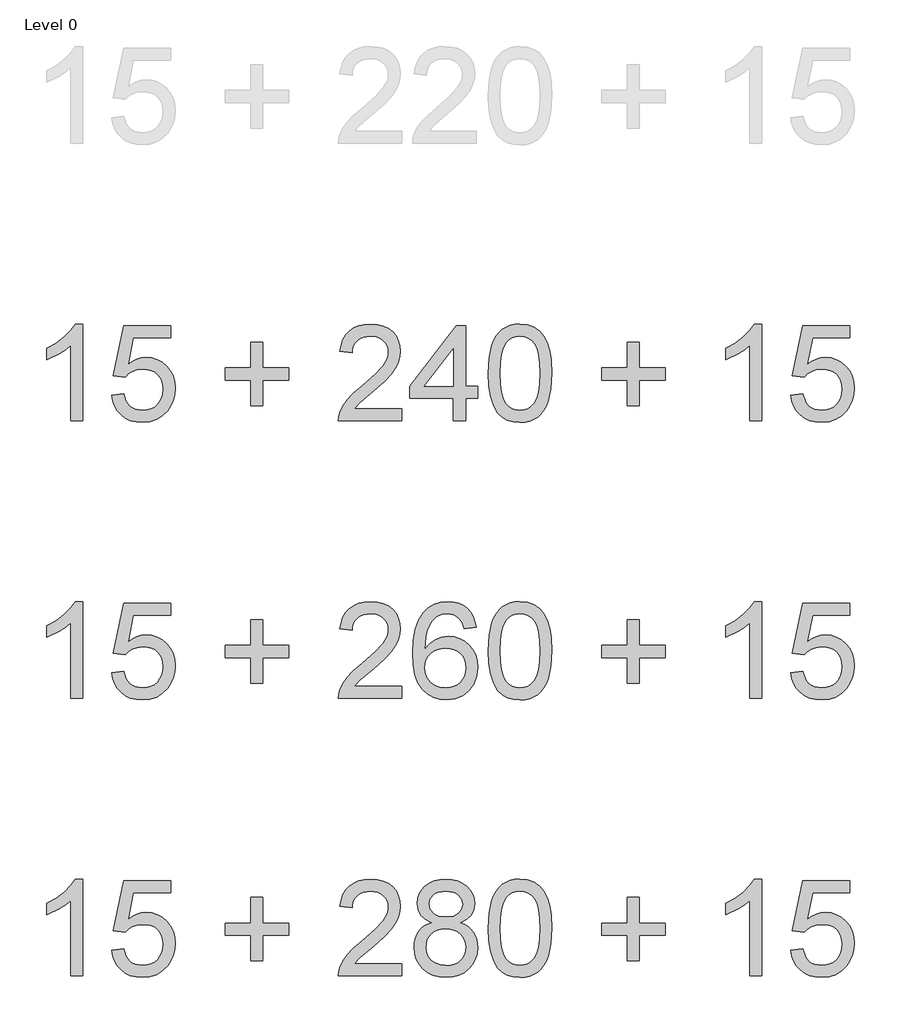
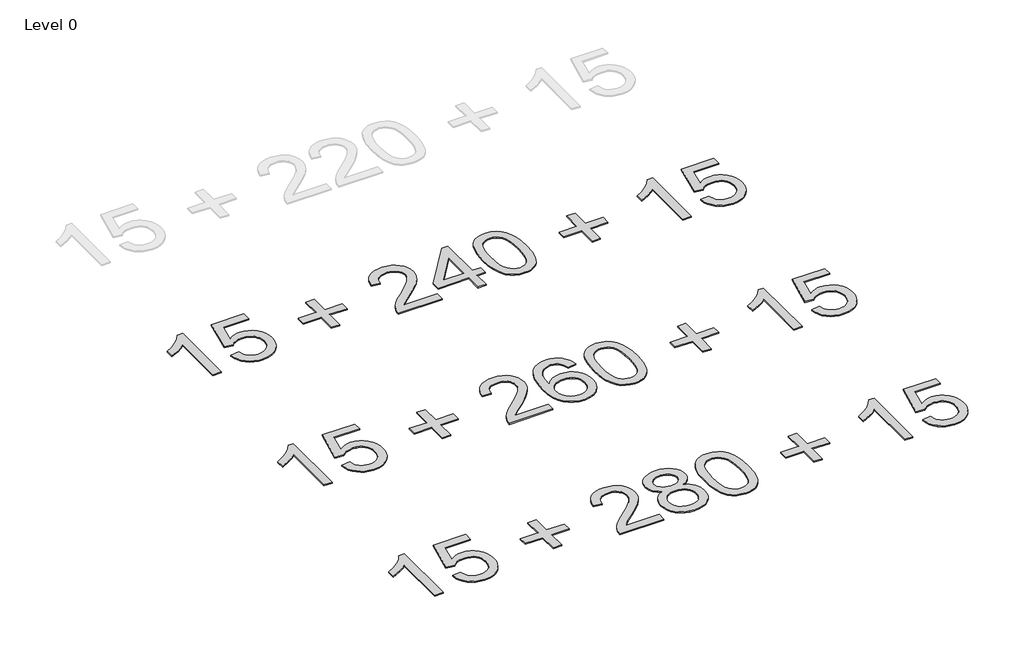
# One storey, part 2 of 11: 3 proxies.
"""IFC4 building model written with IfcOpenShell, lengths in millimetres."""

import ifcopenshell
import ifcopenshell.guid

model = None  # the IFC model being written
_history = None  # IfcOwnerHistory: only IFC2X3 demands one
_inside = {}  # id of a spatial element -> (the spatial element, [elements in it])
_under = {}  # id of a project, library or spatial element -> (it, [spatial elements below it])
_declared = {}  # id of a project -> (the project, [libraries it declares])
_typed = {}  # id of a type object -> (the type object, [elements of that type])
_made_of = {}  # id of a material, layer set ... -> (it, [elements and type objects made of it])


def new_model(schema):
    """Start an empty IFC model of exactly this schema.

    Asked for "IFC4X3", IfcOpenShell would pick the latest addendum, in which some entities
    have other attributes; the version numbers below select the first issue.
    IFC2X3 requires an IfcOwnerHistory on every rooted entity: one is made here for all.
    """
    global model, _history
    if schema == "IFC4X3":
        model = ifcopenshell.file(schema_version=(4, 3, 0, 0))
    else:
        model = ifcopenshell.file(schema=schema)
    _inside.clear()
    _under.clear()
    _declared.clear()
    _typed.clear()
    _made_of.clear()
    _history = None
    if model.schema == "IFC2X3":
        org = make("IfcOrganization", Name="unknown")
        user = make(
            "IfcPersonAndOrganization",
            ThePerson=make("IfcPerson", FamilyName="unknown"),
            TheOrganization=org,
        )
        app = make(
            "IfcApplication",
            ApplicationDeveloper=org,
            Version="unknown",
            ApplicationFullName="unknown",
            ApplicationIdentifier="unknown",
        )
        _history = make(
            "IfcOwnerHistory",
            OwningUser=user,
            OwningApplication=app,
            ChangeAction="ADDED",
            CreationDate=0,
        )
    return model


def make(cls, **values):
    """One entity of the class cls with the attributes given. An attribute that is None is left unset."""
    return model.create_entity(
        cls, **{name: value for name, value in values.items() if value is not None}
    )


def rooted(cls, **values):
    """An entity with a GlobalId (a new one), such as an element, a storey or a relation."""
    return make(cls, GlobalId=ifcopenshell.guid.new(), OwnerHistory=_history, **values)


def si_unit(unit_type, name, prefix=None):
    """IfcSIUnit, for example si_unit("LENGTHUNIT", "METRE", prefix="MILLI")."""
    return make("IfcSIUnit", UnitType=unit_type, Prefix=prefix, Name=name)


def assignment(units):
    """IfcUnitAssignment: the units of a project."""
    return None if units is None else make("IfcUnitAssignment", Units=units)


def point(xyz):
    """IfcCartesianPoint."""
    return None if xyz is None else make("IfcCartesianPoint", Coordinates=xyz)


def direction(xyz):
    """IfcDirection."""
    return None if xyz is None else make("IfcDirection", DirectionRatios=xyz)


def frame(location, z_axis=None, x_axis=None):
    """IfcAxis2Placement3D, a coordinate frame: its origin and axes. An axis left out is left unset."""
    return make(
        "IfcAxis2Placement3D",
        Location=point(location),
        Axis=direction(z_axis),
        RefDirection=direction(x_axis),
    )


def origin():
    """The frame at (0, 0, 0) with its axes left unset."""
    return frame((0.0, 0.0, 0.0))


def origin_with_axes():
    """The frame at (0, 0, 0) with the z axis (0, 0, 1) and the x axis (1, 0, 0) written out."""
    return frame((0.0, 0.0, 0.0), z_axis=(0.0, 0.0, 1.0), x_axis=(1.0, 0.0, 0.0))


def place(relative_to, where):
    """IfcLocalPlacement: puts the frame where relative to a parent placement (None: the world)."""
    return make(
        "IfcLocalPlacement", PlacementRelTo=relative_to, RelativePlacement=where
    )


def context(
    kind, dimensions, precision=None, world=None, true_north=None, identifier=None
):
    """IfcGeometricRepresentationContext, for example the 3D "Model" context."""
    return make(
        "IfcGeometricRepresentationContext",
        ContextIdentifier=identifier,
        ContextType=kind,
        CoordinateSpaceDimension=dimensions,
        Precision=precision,
        WorldCoordinateSystem=world,
        TrueNorth=true_north,
    )


def project(units=None, contexts=None):
    """IfcProject with its units and contexts."""
    return rooted(
        "IfcProject",
        Name="project",
        RepresentationContexts=contexts,
        UnitsInContext=assignment(units),
    )


def spatial(cls, under=None, at=None, **own):
    """A site, building, storey or space (cls), placed at a placement, below another one or the project."""
    s = rooted(cls, ObjectPlacement=at, **own)
    if under is not None:
        _under.setdefault(under.id(), (under, []))[1].append(s)
    return s


def polyline(points):
    """IfcPolyline through the points."""
    return make("IfcPolyline", Points=[point(p) for p in points])


def outline(outer, holes=None, kind="AREA"):
    """IfcArbitraryClosedProfileDef: a profile drawn as a closed curve; with holes, ...WithVoids."""
    if holes is None:
        return make("IfcArbitraryClosedProfileDef", ProfileType=kind, OuterCurve=outer)
    return make(
        "IfcArbitraryProfileDefWithVoids",
        ProfileType=kind,
        OuterCurve=outer,
        InnerCurves=holes,
    )


def extrude(swept, where, along, depth):
    """IfcExtrudedAreaSolid: the profile swept, set in the frame where, extruded along a direction by depth."""
    return make(
        "IfcExtrudedAreaSolid",
        SweptArea=swept,
        Position=where,
        ExtrudedDirection=direction(along),
        Depth=depth,
    )


def shape(context_of_items, identifier, shape_type, items):
    """IfcShapeRepresentation: the items that make up one representation, for example the "Body"."""
    return make(
        "IfcShapeRepresentation",
        ContextOfItems=context_of_items,
        RepresentationIdentifier=identifier,
        RepresentationType=shape_type,
        Items=items,
    )


def made_of(thing, what):
    """Note that an element or type object is made of a material, layer set ...; save() writes the relation."""
    if what is not None:
        _made_of.setdefault(what.id(), (what, []))[1].append(thing)
    return thing


def element(
    cls,
    number,
    at=None,
    inside=None,
    cuts=None,
    type_object=None,
    material=None,
    context=None,
    identifier="Body",
    shape_type=None,
    held_by="IfcProductDefinitionShape",
    body=None,
    shapes=None,
    **own,
):
    """One element of the class cls, such as IfcWall. Its Tag is "e" and its number.

    at: its placement. inside: the storey or other place that contains it. cuts: it is an
    opening in that element (IfcRelVoidsElement). A single representation is given by context,
    identifier, shape_type and body (its items); several are given by shapes. held_by: the class
    of the entity that holds the representations. save() writes the other relations.
    """
    e = rooted(cls, Tag="e%d" % number, ObjectPlacement=at, **own)
    if body is not None:
        shapes = [shape(context, identifier, shape_type, body)]
    if shapes is not None:
        e.Representation = make(held_by, Representations=shapes)
    if inside is not None:
        _inside.setdefault(inside.id(), (inside, []))[1].append(e)
    if cuts is not None:
        rooted(
            "IfcRelVoidsElement", RelatingBuildingElement=cuts, RelatedOpeningElement=e
        )
    if type_object is not None:
        _typed.setdefault(type_object.id(), (type_object, []))[1].append(e)
    return made_of(e, material)


def aggregate(whole, parts):
    """IfcRelAggregates: a whole, such as a stair, and the parts it consists of."""
    return rooted("IfcRelAggregates", RelatingObject=whole, RelatedObjects=parts)


def save(model, path):
    """Write the relations noted so far, then the file.

    IfcRelAggregates (storeys below a building ...), IfcRelContainedInSpatialStructure (elements
    in a storey), IfcRelDefinesByType, IfcRelAssociatesMaterial and IfcRelDeclares: one each for
    every whole, place, type object, material and project.
    """
    for whole, parts in _under.values():
        aggregate(whole, parts)
    for where, things in _inside.values():
        rooted(
            "IfcRelContainedInSpatialStructure",
            RelatedElements=things,
            RelatingStructure=where,
        )
    for kind, things in _typed.values():
        rooted("IfcRelDefinesByType", RelatedObjects=things, RelatingType=kind)
    for what, things in _made_of.values():
        rooted("IfcRelAssociatesMaterial", RelatedObjects=things, RelatingMaterial=what)
    for by, libraries in _declared.values():
        rooted("IfcRelDeclares", RelatingContext=by, RelatedDefinitions=libraries)
    model.write(path)


model = new_model("IFC4")

# Units and contexts
model_context = context("Model", 3, world=origin())
ifc_project = project(units=[si_unit("LENGTHUNIT", "METRE", prefix="MILLI")], contexts=[model_context])

# Site, building, storey
site = spatial("IfcSite", under=ifc_project)
building = spatial("IfcBuilding", under=site)
storey = spatial("IfcBuildingStorey", under=building, Name="Level 0", Elevation=0.0)

# Proxies
placement = place(None, origin())
element("IfcBuildingElementProxy", 1, Name="600mm Arial-500", ObjectType="600mm Arial-500", at=placement, inside=storey, context=model_context, shape_type="SweptSolid", body=[
    extrude(outline(polyline([(27142.4555622, -1549.3323912), (27079.6703683, -1549.3323912), (27079.6703683, -1157.9059483), (27053.4587762, -1179.1051483), (27020.1961124, -1200.2736914), (26954.0999806, -1231.9728567), (26954.0999806, -1172.6212281), (27003.4114964, -1145.7964993), (27046.1317931, -1113.8827362), (27079.8083241, -1079.9456222), (27101.9885427, -1047.0508404), (27142.4555622, -1047.0508404), (27142.4555622, -1549.3323912)])), origin_with_axes(), (0.0, 0.0, 1.0), 8.0),
    extrude(outline(polyline([(27291.5703975, -1415.9138543), (27354.3555914, -1408.065705), (27365.8825606, -1445.7582811), (27374.8650126, -1460.5923562), (27385.993443, -1472.7516225), (27399.244859, -1482.2207518), (27414.5962681, -1488.9844156), (27451.5990654, -1494.3953466), (27475.5113951, -1492.5137834), (27496.6032962, -1486.8690941), (27514.8747686, -1477.4612785), (27530.3258124, -1464.2903366), (27542.6115382, -1448.0077262), (27551.3870566, -1429.264905), (27556.6523677, -1408.0618729), (27558.4074714, -1384.39863), (27556.7634987, -1362.0344704), (27551.8315807, -1342.1535142), (27543.6117174, -1324.7557615), (27532.1039087, -1309.8412123), (27517.2698337, -1297.8773833), (27499.0711712, -1289.3317911), (27477.5079214, -1284.2044358), (27452.5800841, -1282.4953173), (27422.1225206, -1285.2237755), (27397.4590985, -1293.4091499), (27377.7620833, -1305.9477945), (27362.2037406, -1321.7360635), (27299.4185468, -1313.8879143), (27354.3555914, -1054.8989897), (27597.6482175, -1054.8989897), (27597.6482175, -1117.6841835), (27405.1233067, -1117.6841835), (27378.1452937, -1256.0078137), (27400.3025197, -1240.1275742), (27422.9962403, -1228.784546), (27446.2264555, -1221.9787291), (27469.9931652, -1219.7101235), (27500.573356, -1222.5228879), (27528.6703434, -1230.9611812), (27554.2841273, -1245.0250033), (27577.4147078, -1264.7143542), (27596.5675642, -1288.8259533), (27610.2481759, -1316.1565199), (27618.4565429, -1346.7060539), (27621.1926652, -1380.4745554), (27618.7324544, -1413.0014551), (27611.3518218, -1443.2597492), (27599.0507676, -1471.2494377), (27581.8292917, -1496.9705205), (27555.7403269, -1523.3124042), (27525.2980918, -1542.1280354), (27490.5025864, -1553.4174142), (27451.3538108, -1557.1805404), (27418.9533705, -1554.7624827), (27389.6875913, -1547.5083096), (27363.5564734, -1535.4180211), (27340.5600166, -1518.4916172), (27321.4263207, -1497.5721609), (27306.8834856, -1473.5027149), (27296.9315112, -1446.2832794), (27291.5703975, -1415.9138543)])), origin_with_axes(), (0.0, 0.0, 1.0), 8.0),
    extrude(outline(polyline([(28013.6001267, -1470.8508989), (28013.6001267, -1337.432362), (27880.1815898, -1337.432362), (27880.1815898, -1274.6471681), (28013.6001267, -1274.6471681), (28013.6001267, -1141.2286312), (28076.3853206, -1141.2286312), (28076.3853206, -1274.6471681), (28209.8038575, -1274.6471681), (28209.8038575, -1337.432362), (28076.3853206, -1337.432362), (28076.3853206, -1470.8508989), (28013.6001267, -1470.8508989)])), origin_with_axes(), (0.0, 0.0, 1.0), 8.0),
    extrude(outline(polyline([(28798.4150498, -1486.5471973), (28798.4150498, -1549.3323912), (28468.7927821, -1549.3323912), (28470.1723396, -1527.2288146), (28475.5372853, -1506.0449431), (28491.0343144, -1472.2151279), (28513.7356992, -1439.3969883), (28546.5538388, -1405.046007), (28592.4011325, -1366.6176669), (28660.1374048, -1306.4383039), (28700.7423801, -1262.0165529), (28721.021875, -1225.9641174), (28726.0917488, -1208.3057816), (28727.7817067, -1190.8927005), (28726.1837193, -1174.5104554), (28721.389757, -1159.4541184), (28713.39982, -1145.7236893), (28702.213908, -1133.3191683), (28688.4528222, -1123.0452972), (28672.7373632, -1115.7068178), (28655.0675311, -1111.3037301), (28635.4433259, -1109.8360343), (28596.2792218, -1115.568862), (28579.9736188, -1122.7348967), (28565.8523152, -1132.7673453), (28554.4288128, -1145.3289826), (28546.2166137, -1160.0825834), (28541.2157178, -1177.0281479), (28539.4261252, -1196.1656758), (28476.6409313, -1188.3175266), (28482.040366, -1155.90559), (28491.8620489, -1127.5863405), (28506.1059799, -1103.3597783), (28524.772159, -1083.2259033), (28547.4313907, -1067.3993133), (28573.6544791, -1056.0946061), (28603.4414244, -1049.3117819), (28636.7922266, -1047.0508404), (28670.4419328, -1049.5647007), (28700.3898265, -1057.1062816), (28726.6359076, -1069.6755831), (28749.1801761, -1087.2726052), (28767.286868, -1108.5944325), (28780.2202194, -1132.3381496), (28787.9802303, -1158.5037566), (28790.5669005, -1187.0912533), (28787.7771287, -1217.1196211), (28779.4078134, -1246.6268228), (28764.5545778, -1276.6398623), (28742.3130455, -1308.1857433), (28706.8584182, -1345.8476626), (28652.3658977, -1394.2088165), (28580.1383993, -1454.6027774), (28551.8114857, -1486.5471973), (28798.4150498, -1486.5471973)])), origin_with_axes(), (0.0, 0.0, 1.0), 8.0),
    extrude(outline(polyline([(29065.2521236, -1549.3323912), (29065.2521236, -1431.6101527), (28837.6557959, -1431.6101527), (28837.6557959, -1368.8249589), (29080.9484221, -1054.8989897), (29128.0373175, -1054.8989897), (29128.0373175, -1368.8249589), (29190.8225113, -1368.8249589), (29190.8225113, -1431.6101527), (29128.0373175, -1431.6101527), (29128.0373175, -1549.3323912), (29065.2521236, -1549.3323912)]), holes=[polyline([(29065.2521236, -1368.8249589), (29065.2521236, -1174.8285201), (28914.9110149, -1368.8249589), (29065.2521236, -1368.8249589)])]), origin_with_axes(), (0.0, 0.0, 1.0), 8.0),
    extrude(outline(polyline([(29245.7595559, -1302.2383178), (29250.3734093, -1221.8407734), (29264.2149693, -1157.7220073), (29274.5616504, -1131.5219115), (29287.1462804, -1108.9010009), (29301.9688591, -1089.8592755), (29319.0293866, -1074.3967354), (29338.3853445, -1062.4329064), (29360.0942143, -1053.8873142), (29384.1559961, -1048.7599589), (29410.5706897, -1047.0508404), (29449.2596129, -1051.0975424), (29483.9018341, -1063.2376482), (29512.8725412, -1082.995977), (29534.5469221, -1109.8973479), (29550.9176709, -1143.7118347), (29563.9774817, -1184.209511), (29572.5307381, -1235.6363482), (29575.3818236, -1302.2383178), (29570.8139555, -1382.1760096), (29557.1103512, -1446.1414915), (29546.8441442, -1472.3530837), (29534.3169959, -1495.0084832), (29519.5289061, -1514.1076901), (29502.4798749, -1529.6507044), (29483.1009244, -1541.6950077), (29461.3230767, -1550.2980814), (29437.1463318, -1555.4599257), (29410.5706897, -1557.1805404), (29375.9897822, -1554.1914992), (29345.3329493, -1545.2243756), (29318.600191, -1530.2791695), (29295.7915073, -1509.355881), (29273.9025285, -1471.5330134), (29258.2675437, -1424.405797), (29248.8865529, -1367.9742318), (29245.7595559, -1302.2383178)]), holes=[polyline([(29308.5447498, -1302.1156904), (29310.3841597, -1356.6963493), (29315.9023897, -1400.8766777), (29325.0994395, -1434.6566755), (29337.9753094, -1458.0363427), (29353.5489805, -1473.9434069), (29370.8394343, -1485.3055956), (29389.8466707, -1492.1229088), (29410.5706897, -1494.3953466), (29431.2947088, -1492.1152446), (29450.3019452, -1485.2749388), (29467.592399, -1473.874429), (29483.1660701, -1457.9137154), (29496.04194, -1434.4957271), (29505.2389898, -1400.7233935), (29510.7572198, -1356.5967146), (29512.5966297, -1302.1156904), (29510.8185334, -1248.9797347), (29505.4842445, -1205.5773235), (29496.593763, -1171.9084568), (29484.1470888, -1147.9731344), (29468.8340007, -1131.2881531), (29451.3442775, -1119.3703093), (29431.6779192, -1112.219603), (29409.8349258, -1109.8360343), (29389.2182056, -1111.9360273), (29370.5328659, -1118.2360065), (29353.7789067, -1128.7359718), (29338.956328, -1143.4359232), (29325.6512625, -1169.4942312), (29316.1476443, -1204.6269617), (29310.4454734, -1248.8341148), (29308.5447498, -1302.1156904)])]), origin_with_axes(), (0.0, 0.0, 1.0), 8.0),
    extrude(outline(polyline([(29967.7892851, -1470.8508989), (29967.7892851, -1337.432362), (29834.3707482, -1337.432362), (29834.3707482, -1274.6471681), (29967.7892851, -1274.6471681), (29967.7892851, -1141.2286312), (30030.574479, -1141.2286312), (30030.574479, -1274.6471681), (30163.9930159, -1274.6471681), (30163.9930159, -1337.432362), (30030.574479, -1337.432362), (30030.574479, -1470.8508989), (29967.7892851, -1470.8508989)])), origin_with_axes(), (0.0, 0.0, 1.0), 8.0),
    extrude(outline(polyline([(30666.2745666, -1549.3323912), (30603.4893728, -1549.3323912), (30603.4893728, -1157.9059483), (30577.2777806, -1179.1051483), (30544.0151169, -1200.2736914), (30477.9189851, -1231.9728567), (30477.9189851, -1172.6212281), (30527.2305009, -1145.7964993), (30569.9507975, -1113.8827362), (30603.6273285, -1079.9456222), (30625.8075471, -1047.0508404), (30666.2745666, -1047.0508404), (30666.2745666, -1549.3323912)])), origin_with_axes(), (0.0, 0.0, 1.0), 8.0),
    extrude(outline(polyline([(30815.389402, -1415.9138543), (30878.1745958, -1408.065705), (30889.701565, -1445.7582811), (30898.6840171, -1460.5923562), (30909.8124474, -1472.7516225), (30923.0638635, -1482.2207518), (30938.4152726, -1488.9844156), (30975.4180699, -1494.3953466), (30999.3303996, -1492.5137834), (31020.4223006, -1486.8690941), (31038.6937731, -1477.4612785), (31054.1448169, -1464.2903366), (31066.4305427, -1448.0077262), (31075.2060611, -1429.264905), (31080.4713721, -1408.0618729), (31082.2264758, -1384.39863), (31080.5825032, -1362.0344704), (31075.6505852, -1342.1535142), (31067.4307218, -1324.7557615), (31055.9229132, -1309.8412123), (31041.0888381, -1297.8773833), (31022.8901757, -1289.3317911), (31001.3269258, -1284.2044358), (30976.3990886, -1282.4953173), (30945.941525, -1285.2237755), (30921.2781029, -1293.4091499), (30901.5810878, -1305.9477945), (30886.0227451, -1321.7360635), (30823.2375512, -1313.8879143), (30878.1745958, -1054.8989897), (31121.467222, -1054.8989897), (31121.467222, -1117.6841835), (30928.9423112, -1117.6841835), (30901.9642982, -1256.0078137), (30924.1215242, -1240.1275742), (30946.8152448, -1228.784546), (30970.0454599, -1221.9787291), (30993.8121697, -1219.7101235), (31024.3923605, -1222.5228879), (31052.4893479, -1230.9611812), (31078.1031318, -1245.0250033), (31101.2337122, -1264.7143542), (31120.3865686, -1288.8259533), (31134.0671803, -1316.1565199), (31142.2755473, -1346.7060539), (31145.0116697, -1380.4745554), (31142.5514588, -1413.0014551), (31135.1708263, -1443.2597492), (31122.8697721, -1471.2494377), (31105.6482962, -1496.9705205), (31079.5593314, -1523.3124042), (31049.1170963, -1542.1280354), (31014.3215909, -1553.4174142), (30975.1728152, -1557.1805404), (30942.7723749, -1554.7624827), (30913.5065958, -1547.5083096), (30887.3754778, -1535.4180211), (30864.379021, -1518.4916172), (30845.2453252, -1497.5721609), (30830.70249, -1473.5027149), (30820.7505157, -1446.2832794), (30815.389402, -1415.9138543)])), origin_with_axes(), (0.0, 0.0, 1.0), 8.0),
])
element("IfcBuildingElementProxy", 2, Name="600mm Arial-500", ObjectType="600mm Arial-500", at=placement, inside=storey, context=model_context, shape_type="SweptSolid", body=[
    extrude(outline(polyline([(27142.4555622, -2989.3323912), (27079.6703683, -2989.3323912), (27079.6703683, -2597.9059483), (27053.4587762, -2619.1051483), (27020.1961124, -2640.2736914), (26954.0999806, -2671.9728567), (26954.0999806, -2612.6212281), (27003.4114964, -2585.7964993), (27046.1317931, -2553.8827362), (27079.8083241, -2519.9456222), (27101.9885427, -2487.0508404), (27142.4555622, -2487.0508404), (27142.4555622, -2989.3323912)])), origin_with_axes(), (0.0, 0.0, 1.0), 8.0),
    extrude(outline(polyline([(27291.5703975, -2855.9138543), (27354.3555914, -2848.065705), (27365.8825606, -2885.7582811), (27374.8650126, -2900.5923562), (27385.993443, -2912.7516225), (27399.244859, -2922.2207518), (27414.5962681, -2928.9844156), (27451.5990654, -2934.3953466), (27475.5113951, -2932.5137834), (27496.6032962, -2926.8690941), (27514.8747686, -2917.4612785), (27530.3258124, -2904.2903366), (27542.6115382, -2888.0077262), (27551.3870566, -2869.264905), (27556.6523677, -2848.0618729), (27558.4074714, -2824.39863), (27556.7634987, -2802.0344704), (27551.8315807, -2782.1535142), (27543.6117174, -2764.7557615), (27532.1039087, -2749.8412123), (27517.2698337, -2737.8773833), (27499.0711712, -2729.3317911), (27477.5079214, -2724.2044358), (27452.5800841, -2722.4953173), (27422.1225206, -2725.2237755), (27397.4590985, -2733.4091499), (27377.7620833, -2745.9477945), (27362.2037406, -2761.7360635), (27299.4185468, -2753.8879143), (27354.3555914, -2494.8989897), (27597.6482175, -2494.8989897), (27597.6482175, -2557.6841835), (27405.1233067, -2557.6841835), (27378.1452937, -2696.0078137), (27400.3025197, -2680.1275742), (27422.9962403, -2668.784546), (27446.2264555, -2661.9787291), (27469.9931652, -2659.7101235), (27500.573356, -2662.5228879), (27528.6703434, -2670.9611812), (27554.2841273, -2685.0250033), (27577.4147078, -2704.7143542), (27596.5675642, -2728.8259533), (27610.2481759, -2756.1565199), (27618.4565429, -2786.7060539), (27621.1926652, -2820.4745554), (27618.7324544, -2853.0014551), (27611.3518218, -2883.2597492), (27599.0507676, -2911.2494377), (27581.8292917, -2936.9705205), (27555.7403269, -2963.3124042), (27525.2980918, -2982.1280354), (27490.5025864, -2993.4174142), (27451.3538108, -2997.1805404), (27418.9533705, -2994.7624827), (27389.6875913, -2987.5083096), (27363.5564734, -2975.4180211), (27340.5600166, -2958.4916172), (27321.4263207, -2937.5721609), (27306.8834856, -2913.5027149), (27296.9315112, -2886.2832794), (27291.5703975, -2855.9138543)])), origin_with_axes(), (0.0, 0.0, 1.0), 8.0),
    extrude(outline(polyline([(28013.6001267, -2910.8508989), (28013.6001267, -2777.432362), (27880.1815898, -2777.432362), (27880.1815898, -2714.6471681), (28013.6001267, -2714.6471681), (28013.6001267, -2581.2286312), (28076.3853206, -2581.2286312), (28076.3853206, -2714.6471681), (28209.8038575, -2714.6471681), (28209.8038575, -2777.432362), (28076.3853206, -2777.432362), (28076.3853206, -2910.8508989), (28013.6001267, -2910.8508989)])), origin_with_axes(), (0.0, 0.0, 1.0), 8.0),
    extrude(outline(polyline([(28798.4150498, -2926.5471973), (28798.4150498, -2989.3323912), (28468.7927821, -2989.3323912), (28470.1723396, -2967.2288146), (28475.5372853, -2946.0449431), (28491.0343144, -2912.2151279), (28513.7356992, -2879.3969883), (28546.5538388, -2845.046007), (28592.4011325, -2806.6176669), (28660.1374048, -2746.4383039), (28700.7423801, -2702.0165529), (28721.021875, -2665.9641174), (28726.0917488, -2648.3057816), (28727.7817067, -2630.8927005), (28726.1837193, -2614.5104554), (28721.389757, -2599.4541184), (28713.39982, -2585.7236893), (28702.213908, -2573.3191683), (28688.4528222, -2563.0452972), (28672.7373632, -2555.7068178), (28655.0675311, -2551.3037301), (28635.4433259, -2549.8360343), (28596.2792218, -2555.568862), (28579.9736188, -2562.7348967), (28565.8523152, -2572.7673453), (28554.4288128, -2585.3289826), (28546.2166137, -2600.0825834), (28541.2157178, -2617.0281479), (28539.4261252, -2636.1656758), (28476.6409313, -2628.3175266), (28482.040366, -2595.90559), (28491.8620489, -2567.5863405), (28506.1059799, -2543.3597783), (28524.772159, -2523.2259033), (28547.4313907, -2507.3993133), (28573.6544791, -2496.0946061), (28603.4414244, -2489.3117819), (28636.7922266, -2487.0508404), (28670.4419328, -2489.5647007), (28700.3898265, -2497.1062816), (28726.6359076, -2509.6755831), (28749.1801761, -2527.2726052), (28767.286868, -2548.5944325), (28780.2202194, -2572.3381496), (28787.9802303, -2598.5037566), (28790.5669005, -2627.0912533), (28787.7771287, -2657.1196211), (28779.4078134, -2686.6268228), (28764.5545778, -2716.6398623), (28742.3130455, -2748.1857433), (28706.8584182, -2785.8476626), (28652.3658977, -2834.2088165), (28580.1383993, -2894.6027774), (28551.8114857, -2926.5471973), (28798.4150498, -2926.5471973)])), origin_with_axes(), (0.0, 0.0, 1.0), 8.0),
    extrude(outline(polyline([(29182.9743621, -2620.4693773), (29120.1891682, -2628.3175266), (29110.0724134, -2597.2008412), (29096.3994659, -2575.9556559), (29082.9027952, -2564.5283215), (29067.9192681, -2556.3659397), (29051.4488846, -2551.4685106), (29033.4916447, -2549.8360343), (29004.3063397, -2553.6374816), (28976.8378174, -2565.0418234), (28953.2473845, -2589.061452), (28933.979565, -2622.1248463), (28926.4494804, -2643.2129153), (28920.9657394, -2668.891845), (28916.1372882, -2734.0222865), (28941.3218765, -2704.6377122), (28971.5035285, -2683.9290215), (29004.9961185, -2671.6509599), (29040.1135206, -2667.5582727), (29070.2798442, -2670.3557087), (29098.1162485, -2678.7480167), (29123.6227335, -2692.7351968), (29146.7992992, -2712.3172488), (29166.0594545, -2736.3292132), (29179.8167083, -2763.6061303), (29188.0710605, -2794.1480001), (29190.8225113, -2827.9548226), (29185.6415065, -2872.9130681), (29170.0984922, -2914.5910325), (29145.4810554, -2949.9383609), (29113.076783, -2975.9046984), (29074.357203, -2991.8615799), (29030.7938434, -2997.1805404), (28993.3656825, -2993.6550046), (28959.5626921, -2983.0783973), (28929.3848722, -2965.4507183), (28902.8322227, -2940.7719678), (28881.1846666, -2907.9998134), (28865.7221265, -2866.0919228), (28856.4446024, -2815.048296), (28853.3520944, -2754.8689329), (28856.7856597, -2687.4009078), (28867.0863555, -2629.8197114), (28884.254182, -2582.1253436), (28908.289139, -2544.3178043), (28934.3397828, -2519.2635076), (28964.5444274, -2501.3675814), (28998.9030729, -2490.6300257), (29037.4157193, -2487.0508404), (29066.332777, -2489.2657966), (29092.5060481, -2495.9106651), (29115.9355327, -2506.985446), (29136.6212307, -2522.4901393), (29154.0036549, -2541.9035788), (29167.5233183, -2564.7045982), (29177.1802206, -2590.8931978), (29182.9743621, -2620.4693773)]), holes=[polyline([(28916.1372882, -2826.973804), (28919.7701229, -2854.7948799), (28930.668627, -2881.3590256), (28947.5911988, -2904.1983661), (28969.2962365, -2920.8450264), (28995.4925003, -2931.0077665), (29025.8887501, -2934.3953466), (29047.7125831, -2932.6402429), (29067.3214598, -2927.3749318), (29084.7153804, -2918.5994134), (29099.8943448, -2906.3136876), (29112.2068953, -2891.015928), (29121.0015743, -2873.204308), (29126.2783817, -2852.8788278), (29128.0373175, -2830.0394873), (29126.3013743, -2808.093027), (29121.0935448, -2788.6067776), (29112.413829, -2771.580739), (29100.2622268, -2757.0149112), (29085.0372772, -2745.3461542), (29067.1375188, -2737.0113277), (29046.5629518, -2732.0104319), (29023.3135762, -2730.3434666), (29001.7809831, -2732.0104319), (28981.9421801, -2737.0113277), (28963.7971671, -2745.3461542), (28947.3459442, -2757.0149112), (28933.6921572, -2771.3891338), (28923.9394522, -2787.8403567), (28918.0878292, -2806.3685801), (28916.1372882, -2826.973804)])]), origin_with_axes(), (0.0, 0.0, 1.0), 8.0),
    extrude(outline(polyline([(29245.7595559, -2742.2383178), (29250.3734093, -2661.8407734), (29264.2149693, -2597.7220073), (29274.5616504, -2571.5219115), (29287.1462804, -2548.9010009), (29301.9688591, -2529.8592755), (29319.0293866, -2514.3967354), (29338.3853445, -2502.4329064), (29360.0942143, -2493.8873142), (29384.1559961, -2488.7599589), (29410.5706897, -2487.0508404), (29449.2596129, -2491.0975424), (29483.9018341, -2503.2376482), (29512.8725412, -2522.995977), (29534.5469221, -2549.8973479), (29550.9176709, -2583.7118347), (29563.9774817, -2624.209511), (29572.5307381, -2675.6363482), (29575.3818236, -2742.2383178), (29570.8139555, -2822.1760096), (29557.1103512, -2886.1414915), (29546.8441442, -2912.3530837), (29534.3169959, -2935.0084832), (29519.5289061, -2954.1076901), (29502.4798749, -2969.6507044), (29483.1009244, -2981.6950077), (29461.3230767, -2990.2980814), (29437.1463318, -2995.4599257), (29410.5706897, -2997.1805404), (29375.9897822, -2994.1914992), (29345.3329493, -2985.2243756), (29318.600191, -2970.2791695), (29295.7915073, -2949.355881), (29273.9025285, -2911.5330134), (29258.2675437, -2864.405797), (29248.8865529, -2807.9742318), (29245.7595559, -2742.2383178)]), holes=[polyline([(29308.5447498, -2742.1156904), (29310.3841597, -2796.6963493), (29315.9023897, -2840.8766777), (29325.0994395, -2874.6566755), (29337.9753094, -2898.0363427), (29353.5489805, -2913.9434069), (29370.8394343, -2925.3055956), (29389.8466707, -2932.1229088), (29410.5706897, -2934.3953466), (29431.2947088, -2932.1152446), (29450.3019452, -2925.2749388), (29467.592399, -2913.874429), (29483.1660701, -2897.9137154), (29496.04194, -2874.4957271), (29505.2389898, -2840.7233935), (29510.7572198, -2796.5967146), (29512.5966297, -2742.1156904), (29510.8185334, -2688.9797347), (29505.4842445, -2645.5773235), (29496.593763, -2611.9084568), (29484.1470888, -2587.9731344), (29468.8340007, -2571.2881531), (29451.3442775, -2559.3703093), (29431.6779192, -2552.219603), (29409.8349258, -2549.8360343), (29389.2182056, -2551.9360273), (29370.5328659, -2558.2360065), (29353.7789067, -2568.7359718), (29338.956328, -2583.4359232), (29325.6512625, -2609.4942312), (29316.1476443, -2644.6269617), (29310.4454734, -2688.8341148), (29308.5447498, -2742.1156904)])]), origin_with_axes(), (0.0, 0.0, 1.0), 8.0),
    extrude(outline(polyline([(29967.7892851, -2910.8508989), (29967.7892851, -2777.432362), (29834.3707482, -2777.432362), (29834.3707482, -2714.6471681), (29967.7892851, -2714.6471681), (29967.7892851, -2581.2286312), (30030.574479, -2581.2286312), (30030.574479, -2714.6471681), (30163.9930159, -2714.6471681), (30163.9930159, -2777.432362), (30030.574479, -2777.432362), (30030.574479, -2910.8508989), (29967.7892851, -2910.8508989)])), origin_with_axes(), (0.0, 0.0, 1.0), 8.0),
    extrude(outline(polyline([(30666.2745666, -2989.3323912), (30603.4893728, -2989.3323912), (30603.4893728, -2597.9059483), (30577.2777806, -2619.1051483), (30544.0151169, -2640.2736914), (30477.9189851, -2671.9728567), (30477.9189851, -2612.6212281), (30527.2305009, -2585.7964993), (30569.9507975, -2553.8827362), (30603.6273285, -2519.9456222), (30625.8075471, -2487.0508404), (30666.2745666, -2487.0508404), (30666.2745666, -2989.3323912)])), origin_with_axes(), (0.0, 0.0, 1.0), 8.0),
    extrude(outline(polyline([(30815.389402, -2855.9138543), (30878.1745958, -2848.065705), (30889.701565, -2885.7582811), (30898.6840171, -2900.5923562), (30909.8124474, -2912.7516225), (30923.0638635, -2922.2207518), (30938.4152726, -2928.9844156), (30975.4180699, -2934.3953466), (30999.3303996, -2932.5137834), (31020.4223006, -2926.8690941), (31038.6937731, -2917.4612785), (31054.1448169, -2904.2903366), (31066.4305427, -2888.0077262), (31075.2060611, -2869.264905), (31080.4713721, -2848.0618729), (31082.2264758, -2824.39863), (31080.5825032, -2802.0344704), (31075.6505852, -2782.1535142), (31067.4307218, -2764.7557615), (31055.9229132, -2749.8412123), (31041.0888381, -2737.8773833), (31022.8901757, -2729.3317911), (31001.3269258, -2724.2044358), (30976.3990886, -2722.4953173), (30945.941525, -2725.2237755), (30921.2781029, -2733.4091499), (30901.5810878, -2745.9477945), (30886.0227451, -2761.7360635), (30823.2375512, -2753.8879143), (30878.1745958, -2494.8989897), (31121.467222, -2494.8989897), (31121.467222, -2557.6841835), (30928.9423112, -2557.6841835), (30901.9642982, -2696.0078137), (30924.1215242, -2680.1275742), (30946.8152448, -2668.784546), (30970.0454599, -2661.9787291), (30993.8121697, -2659.7101235), (31024.3923605, -2662.5228879), (31052.4893479, -2670.9611812), (31078.1031318, -2685.0250033), (31101.2337122, -2704.7143542), (31120.3865686, -2728.8259533), (31134.0671803, -2756.1565199), (31142.2755473, -2786.7060539), (31145.0116697, -2820.4745554), (31142.5514588, -2853.0014551), (31135.1708263, -2883.2597492), (31122.8697721, -2911.2494377), (31105.6482962, -2936.9705205), (31079.5593314, -2963.3124042), (31049.1170963, -2982.1280354), (31014.3215909, -2993.4174142), (30975.1728152, -2997.1805404), (30942.7723749, -2994.7624827), (30913.5065958, -2987.5083096), (30887.3754778, -2975.4180211), (30864.379021, -2958.4916172), (30845.2453252, -2937.5721609), (30830.70249, -2913.5027149), (30820.7505157, -2886.2832794), (30815.389402, -2855.9138543)])), origin_with_axes(), (0.0, 0.0, 1.0), 8.0),
])
element("IfcBuildingElementProxy", 3, Name="600mm Arial-500", ObjectType="600mm Arial-500", at=placement, inside=storey, context=model_context, shape_type="SweptSolid", body=[
    extrude(outline(polyline([(27142.4555622, -4429.3323912), (27079.6703683, -4429.3323912), (27079.6703683, -4037.9059483), (27053.4587762, -4059.1051483), (27020.1961124, -4080.2736914), (26954.0999806, -4111.9728567), (26954.0999806, -4052.6212281), (27003.4114964, -4025.7964993), (27046.1317931, -3993.8827362), (27079.8083241, -3959.9456222), (27101.9885427, -3927.0508404), (27142.4555622, -3927.0508404), (27142.4555622, -4429.3323912)])), origin_with_axes(), (0.0, 0.0, 1.0), 8.0),
    extrude(outline(polyline([(27291.5703975, -4295.9138543), (27354.3555914, -4288.065705), (27365.8825606, -4325.7582811), (27374.8650126, -4340.5923562), (27385.993443, -4352.7516225), (27399.244859, -4362.2207518), (27414.5962681, -4368.9844156), (27451.5990654, -4374.3953466), (27475.5113951, -4372.5137834), (27496.6032962, -4366.8690941), (27514.8747686, -4357.4612785), (27530.3258124, -4344.2903366), (27542.6115382, -4328.0077262), (27551.3870566, -4309.264905), (27556.6523677, -4288.0618729), (27558.4074714, -4264.39863), (27556.7634987, -4242.0344704), (27551.8315807, -4222.1535142), (27543.6117174, -4204.7557615), (27532.1039087, -4189.8412123), (27517.2698337, -4177.8773833), (27499.0711712, -4169.3317911), (27477.5079214, -4164.2044358), (27452.5800841, -4162.4953173), (27422.1225206, -4165.2237755), (27397.4590985, -4173.4091499), (27377.7620833, -4185.9477945), (27362.2037406, -4201.7360635), (27299.4185468, -4193.8879143), (27354.3555914, -3934.8989897), (27597.6482175, -3934.8989897), (27597.6482175, -3997.6841835), (27405.1233067, -3997.6841835), (27378.1452937, -4136.0078137), (27400.3025197, -4120.1275742), (27422.9962403, -4108.784546), (27446.2264555, -4101.9787291), (27469.9931652, -4099.7101235), (27500.573356, -4102.5228879), (27528.6703434, -4110.9611812), (27554.2841273, -4125.0250033), (27577.4147078, -4144.7143542), (27596.5675642, -4168.8259533), (27610.2481759, -4196.1565199), (27618.4565429, -4226.7060539), (27621.1926652, -4260.4745554), (27618.7324544, -4293.0014551), (27611.3518218, -4323.2597492), (27599.0507676, -4351.2494377), (27581.8292917, -4376.9705205), (27555.7403269, -4403.3124042), (27525.2980918, -4422.1280354), (27490.5025864, -4433.4174142), (27451.3538108, -4437.1805404), (27418.9533705, -4434.7624827), (27389.6875913, -4427.5083096), (27363.5564734, -4415.4180211), (27340.5600166, -4398.4916172), (27321.4263207, -4377.5721609), (27306.8834856, -4353.5027149), (27296.9315112, -4326.2832794), (27291.5703975, -4295.9138543)])), origin_with_axes(), (0.0, 0.0, 1.0), 8.0),
    extrude(outline(polyline([(28013.6001267, -4350.8508989), (28013.6001267, -4217.432362), (27880.1815898, -4217.432362), (27880.1815898, -4154.6471681), (28013.6001267, -4154.6471681), (28013.6001267, -4021.2286312), (28076.3853206, -4021.2286312), (28076.3853206, -4154.6471681), (28209.8038575, -4154.6471681), (28209.8038575, -4217.432362), (28076.3853206, -4217.432362), (28076.3853206, -4350.8508989), (28013.6001267, -4350.8508989)])), origin_with_axes(), (0.0, 0.0, 1.0), 8.0),
    extrude(outline(polyline([(28798.4150498, -4366.5471973), (28798.4150498, -4429.3323912), (28468.7927821, -4429.3323912), (28470.1723396, -4407.2288146), (28475.5372853, -4386.0449431), (28491.0343144, -4352.2151279), (28513.7356992, -4319.3969883), (28546.5538388, -4285.046007), (28592.4011325, -4246.6176669), (28660.1374048, -4186.4383039), (28700.7423801, -4142.0165529), (28721.021875, -4105.9641174), (28726.0917488, -4088.3057816), (28727.7817067, -4070.8927005), (28726.1837193, -4054.5104554), (28721.389757, -4039.4541184), (28713.39982, -4025.7236893), (28702.213908, -4013.3191683), (28688.4528222, -4003.0452972), (28672.7373632, -3995.7068178), (28655.0675311, -3991.3037301), (28635.4433259, -3989.8360343), (28596.2792218, -3995.568862), (28579.9736188, -4002.7348967), (28565.8523152, -4012.7673453), (28554.4288128, -4025.3289826), (28546.2166137, -4040.0825834), (28541.2157178, -4057.0281479), (28539.4261252, -4076.1656758), (28476.6409313, -4068.3175266), (28482.040366, -4035.90559), (28491.8620489, -4007.5863405), (28506.1059799, -3983.3597783), (28524.772159, -3963.2259033), (28547.4313907, -3947.3993133), (28573.6544791, -3936.0946061), (28603.4414244, -3929.3117819), (28636.7922266, -3927.0508404), (28670.4419328, -3929.5647007), (28700.3898265, -3937.1062816), (28726.6359076, -3949.6755831), (28749.1801761, -3967.2726052), (28767.286868, -3988.5944325), (28780.2202194, -4012.3381496), (28787.9802303, -4038.5037566), (28790.5669005, -4067.0912533), (28787.7771287, -4097.1196211), (28779.4078134, -4126.6268228), (28764.5545778, -4156.6398623), (28742.3130455, -4188.1857433), (28706.8584182, -4225.8476626), (28652.3658977, -4274.2088165), (28580.1383993, -4334.6027774), (28551.8114857, -4366.5471973), (28798.4150498, -4366.5471973)])), origin_with_axes(), (0.0, 0.0, 1.0), 8.0),
    extrude(outline(polyline([(28952.6802331, -4152.6851308), (28919.0650158, -4136.130441), (28895.4745828, -4113.6896393), (28881.5410523, -4085.8225782), (28876.8965421, -4052.9891101), (28879.4257308, -4027.3829904), (28887.0132969, -4003.9075206), (28899.6592405, -3982.5627007), (28917.3635615, -3963.3485306), (28939.2755329, -3947.4682912), (28964.5444274, -3936.125263), (28993.1702452, -3929.3194461), (29025.1529861, -3927.0508404), (29057.2890113, -3929.3730955), (29086.1294268, -3936.3398608), (29111.6742329, -3947.9511363), (29133.9234294, -3964.2069219), (29151.9496471, -3983.7966382), (29164.825517, -4005.4097054), (29172.5510389, -4029.0461236), (29175.1262128, -4054.7058928), (29170.5430163, -4086.4817001), (29156.7934267, -4113.8735803), (29133.72416, -4136.1764263), (29101.1819318, -4152.6851308), (29121.8178125, -4161.4644813), (29139.8248697, -4172.5967438), (29155.2031035, -4186.0819182), (29167.9525139, -4201.9200045), (29177.9581378, -4219.7584492), (29185.105012, -4239.2446986), (29190.8225113, -4283.1606118), (29187.9867542, -4314.4765666), (29179.4794831, -4343.1866906), (29165.3006979, -4369.2909839), (29145.4503986, -4392.7894463), (29120.9709175, -4412.21055), (29092.9045869, -4426.0827669), (29061.2514069, -4434.406097), (29026.0113775, -4437.1805404), (28990.771348, -4434.3946007), (28959.118168, -4426.0367816), (28931.0518375, -4412.1070832), (28906.5723564, -4392.6055053), (28886.722057, -4368.9422624), (28872.5432718, -4342.5275687), (28864.0360007, -4313.3614243), (28861.2002436, -4281.4438291), (28862.6871, -4257.6234699), (28867.1476692, -4235.8264617), (28874.5819512, -4216.0528045), (28884.989946, -4198.3024982), (28898.1417273, -4182.8974397), (28913.8073689, -4170.1595256), (28931.9868709, -4160.088756), (28952.6802331, -4152.6851308)]), holes=[polyline([(28939.6817359, -4054.8285201), (28945.2459511, -4082.2357287), (28961.9385966, -4104.1247074), (28974.3354534, -4112.4940228), (28989.2691632, -4118.4721053), (29026.7471414, -4123.2545712), (29063.3514, -4118.5027621), (29078.0206945, -4112.5630007), (29090.2680993, -4104.2473348), (29106.8227891, -4083.0941201), (29112.341019, -4057.6489487), (29106.6388481, -4031.2380871), (29089.5323353, -4009.3950937), (29077.009019, -4000.8380052), (29062.247754, -3994.7257991), (29026.0113775, -3989.8360343), (28989.5450747, -3994.6185002), (28974.7723133, -4000.5965826), (28962.3064786, -4008.965898), (28945.3379216, -4029.9964854), (28939.6817359, -4054.8285201)]), polyline([(28923.9854375, -4279.2365371), (28926.6065967, -4303.2561657), (28934.4700743, -4326.5093735), (28948.9860847, -4346.7888685), (28971.5648422, -4361.8873587), (28998.6041688, -4371.2683496), (29026.5018868, -4374.3953466), (29049.2032716, -4372.7513739), (29069.2375119, -4367.8194559), (29086.6046077, -4359.5995926), (29101.3045591, -4348.0917839), (29113.0001409, -4334.0471223), (29121.3541279, -4318.2167002), (29126.3665201, -4300.6005176), (29128.0373175, -4281.1985745), (29126.3128706, -4261.4862309), (29121.13953, -4243.5519836), (29112.5172958, -4227.3958327), (29100.4461678, -4213.017778), (29085.3476776, -4201.2148973), (29067.6433566, -4192.7842683), (29047.3332048, -4187.7258908), (29024.4172221, -4186.039765), (29002.0492304, -4187.7028982), (28982.2794053, -4192.6922978), (28965.1077467, -4201.0079637), (28950.5342548, -4212.649896), (28938.9191472, -4226.7903602), (28930.6226418, -4242.6016218), (28925.6447385, -4260.0836808), (28923.9854375, -4279.2365371)])]), origin_with_axes(), (0.0, 0.0, 1.0), 8.0),
    extrude(outline(polyline([(29245.7595559, -4182.2383178), (29250.3734093, -4101.8407734), (29264.2149693, -4037.7220073), (29274.5616504, -4011.5219115), (29287.1462804, -3988.9010009), (29301.9688591, -3969.8592755), (29319.0293866, -3954.3967354), (29338.3853445, -3942.4329064), (29360.0942143, -3933.8873142), (29384.1559961, -3928.7599589), (29410.5706897, -3927.0508404), (29449.2596129, -3931.0975424), (29483.9018341, -3943.2376482), (29512.8725412, -3962.995977), (29534.5469221, -3989.8973479), (29550.9176709, -4023.7118347), (29563.9774817, -4064.209511), (29572.5307381, -4115.6363482), (29575.3818236, -4182.2383178), (29570.8139555, -4262.1760096), (29557.1103512, -4326.1414915), (29546.8441442, -4352.3530837), (29534.3169959, -4375.0084832), (29519.5289061, -4394.1076901), (29502.4798749, -4409.6507044), (29483.1009244, -4421.6950077), (29461.3230767, -4430.2980814), (29437.1463318, -4435.4599257), (29410.5706897, -4437.1805404), (29375.9897822, -4434.1914992), (29345.3329493, -4425.2243756), (29318.600191, -4410.2791695), (29295.7915073, -4389.355881), (29273.9025285, -4351.5330134), (29258.2675437, -4304.405797), (29248.8865529, -4247.9742318), (29245.7595559, -4182.2383178)]), holes=[polyline([(29308.5447498, -4182.1156904), (29310.3841597, -4236.6963493), (29315.9023897, -4280.8766777), (29325.0994395, -4314.6566755), (29337.9753094, -4338.0363427), (29353.5489805, -4353.9434069), (29370.8394343, -4365.3055956), (29389.8466707, -4372.1229088), (29410.5706897, -4374.3953466), (29431.2947088, -4372.1152446), (29450.3019452, -4365.2749388), (29467.592399, -4353.874429), (29483.1660701, -4337.9137154), (29496.04194, -4314.4957271), (29505.2389898, -4280.7233935), (29510.7572198, -4236.5967146), (29512.5966297, -4182.1156904), (29510.8185334, -4128.9797347), (29505.4842445, -4085.5773235), (29496.593763, -4051.9084568), (29484.1470888, -4027.9731344), (29468.8340007, -4011.2881531), (29451.3442775, -3999.3703093), (29431.6779192, -3992.219603), (29409.8349258, -3989.8360343), (29389.2182056, -3991.9360273), (29370.5328659, -3998.2360065), (29353.7789067, -4008.7359718), (29338.956328, -4023.4359232), (29325.6512625, -4049.4942312), (29316.1476443, -4084.6269617), (29310.4454734, -4128.8341148), (29308.5447498, -4182.1156904)])]), origin_with_axes(), (0.0, 0.0, 1.0), 8.0),
    extrude(outline(polyline([(29967.7892851, -4350.8508989), (29967.7892851, -4217.432362), (29834.3707482, -4217.432362), (29834.3707482, -4154.6471681), (29967.7892851, -4154.6471681), (29967.7892851, -4021.2286312), (30030.574479, -4021.2286312), (30030.574479, -4154.6471681), (30163.9930159, -4154.6471681), (30163.9930159, -4217.432362), (30030.574479, -4217.432362), (30030.574479, -4350.8508989), (29967.7892851, -4350.8508989)])), origin_with_axes(), (0.0, 0.0, 1.0), 8.0),
    extrude(outline(polyline([(30666.2745666, -4429.3323912), (30603.4893728, -4429.3323912), (30603.4893728, -4037.9059483), (30577.2777806, -4059.1051483), (30544.0151169, -4080.2736914), (30477.9189851, -4111.9728567), (30477.9189851, -4052.6212281), (30527.2305009, -4025.7964993), (30569.9507975, -3993.8827362), (30603.6273285, -3959.9456222), (30625.8075471, -3927.0508404), (30666.2745666, -3927.0508404), (30666.2745666, -4429.3323912)])), origin_with_axes(), (0.0, 0.0, 1.0), 8.0),
    extrude(outline(polyline([(30815.389402, -4295.9138543), (30878.1745958, -4288.065705), (30889.701565, -4325.7582811), (30898.6840171, -4340.5923562), (30909.8124474, -4352.7516225), (30923.0638635, -4362.2207518), (30938.4152726, -4368.9844156), (30975.4180699, -4374.3953466), (30999.3303996, -4372.5137834), (31020.4223006, -4366.8690941), (31038.6937731, -4357.4612785), (31054.1448169, -4344.2903366), (31066.4305427, -4328.0077262), (31075.2060611, -4309.264905), (31080.4713721, -4288.0618729), (31082.2264758, -4264.39863), (31080.5825032, -4242.0344704), (31075.6505852, -4222.1535142), (31067.4307218, -4204.7557615), (31055.9229132, -4189.8412123), (31041.0888381, -4177.8773833), (31022.8901757, -4169.3317911), (31001.3269258, -4164.2044358), (30976.3990886, -4162.4953173), (30945.941525, -4165.2237755), (30921.2781029, -4173.4091499), (30901.5810878, -4185.9477945), (30886.0227451, -4201.7360635), (30823.2375512, -4193.8879143), (30878.1745958, -3934.8989897), (31121.467222, -3934.8989897), (31121.467222, -3997.6841835), (30928.9423112, -3997.6841835), (30901.9642982, -4136.0078137), (30924.1215242, -4120.1275742), (30946.8152448, -4108.784546), (30970.0454599, -4101.9787291), (30993.8121697, -4099.7101235), (31024.3923605, -4102.5228879), (31052.4893479, -4110.9611812), (31078.1031318, -4125.0250033), (31101.2337122, -4144.7143542), (31120.3865686, -4168.8259533), (31134.0671803, -4196.1565199), (31142.2755473, -4226.7060539), (31145.0116697, -4260.4745554), (31142.5514588, -4293.0014551), (31135.1708263, -4323.2597492), (31122.8697721, -4351.2494377), (31105.6482962, -4376.9705205), (31079.5593314, -4403.3124042), (31049.1170963, -4422.1280354), (31014.3215909, -4433.4174142), (30975.1728152, -4437.1805404), (30942.7723749, -4434.7624827), (30913.5065958, -4427.5083096), (30887.3754778, -4415.4180211), (30864.379021, -4398.4916172), (30845.2453252, -4377.5721609), (30830.70249, -4353.5027149), (30820.7505157, -4326.2832794), (30815.389402, -4295.9138543)])), origin_with_axes(), (0.0, 0.0, 1.0), 8.0),
])

save(model, "model.ifc")
